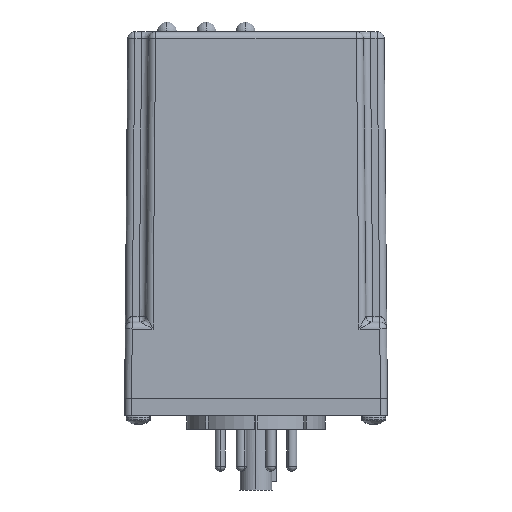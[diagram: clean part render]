
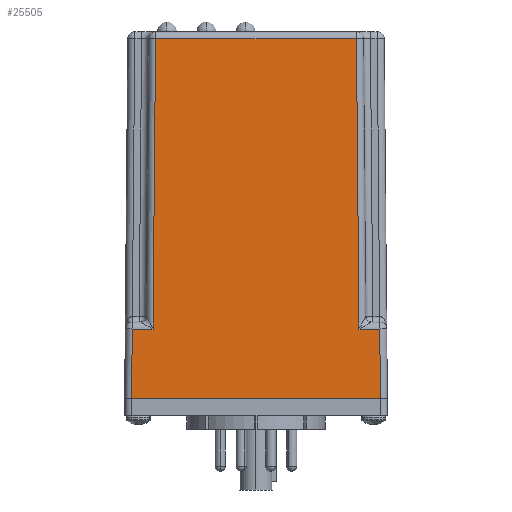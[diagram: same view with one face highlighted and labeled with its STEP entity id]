
A CAD part, left-side view. The second image highlights one B-rep face of the part: STEP entity #25505.
In plain terms, the highlighted planar face has unit normal (-1, 0, 0.009).
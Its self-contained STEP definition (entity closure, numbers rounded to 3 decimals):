
#1275 = DIRECTION ( 'NONE',  ( 0., 1., 0. ) ) ;
#1820 = VECTOR ( 'NONE', #5641, 1000. ) ;
#2055 = EDGE_CURVE ( 'NONE', #35200, #5190, #32835, .T. ) ;
#3034 = EDGE_CURVE ( 'NONE', #9596, #10174, #31612, .T. ) ;
#3218 = CARTESIAN_POINT ( 'NONE',  ( -22.221, 28.558, 0.512 ) ) ;
#3793 = DIRECTION ( 'NONE',  ( 0.009, 0.009, 1. ) ) ;
#3855 = LINE ( 'NONE', #9967, #33288 ) ;
#4881 = AXIS2_PLACEMENT_3D ( 'NONE', #19108, #18525, #15128 ) ;
#5190 = VERTEX_POINT ( 'NONE', #11283 ) ;
#5417 = CARTESIAN_POINT ( 'NONE',  ( -22.225, -28.562, 0. ) ) ;
#5641 = DIRECTION ( 'NONE',  ( 0., 1., 0. ) ) ;
#7003 = FACE_OUTER_BOUND ( 'NONE', #33588, .T. ) ;
#7717 = CARTESIAN_POINT ( 'NONE',  ( -22.086, -23.649, 15.889 ) ) ;
#9161 = VERTEX_POINT ( 'NONE', #5417 ) ;
#9596 = VERTEX_POINT ( 'NONE', #7717 ) ;
#9775 = EDGE_CURVE ( 'NONE', #10174, #25267, #16785, .T. ) ;
#9967 = CARTESIAN_POINT ( 'NONE',  ( -22.225, -30.163, 0. ) ) ;
#10045 = CARTESIAN_POINT ( 'NONE',  ( -22.086, 23.649, 15.889 ) ) ;
#10174 = VERTEX_POINT ( 'NONE', #38957 ) ;
#10233 = DIRECTION ( 'NONE',  ( 0., 1., 0. ) ) ;
#10592 = CARTESIAN_POINT ( 'NONE',  ( -22.225, 28.562, 0. ) ) ;
#11283 = CARTESIAN_POINT ( 'NONE',  ( -22.086, 28.424, 15.889 ) ) ;
#12171 = ORIENTED_EDGE ( 'NONE', *, *, #20058, .T. ) ;
#12950 = VECTOR ( 'NONE', #10233, 1000. ) ;
#13942 = CARTESIAN_POINT ( 'NONE',  ( -22.086, -23.635, 15.889 ) ) ;
#14203 = VECTOR ( 'NONE', #26975, 1000. ) ;
#14673 = VECTOR ( 'NONE', #3793, 1000. ) ;
#14900 = EDGE_CURVE ( 'NONE', #25267, #35200, #30659, .T. ) ;
#15128 = DIRECTION ( 'NONE',  ( 0.009, 0., 1. ) ) ;
#15887 = ORIENTED_EDGE ( 'NONE', *, *, #21694, .T. ) ;
#15923 = DIRECTION ( 'NONE',  ( 0., -1., 0. ) ) ;
#15942 = CARTESIAN_POINT ( 'NONE',  ( -22.225, -23.788, -0.056 ) ) ;
#16331 = LINE ( 'NONE', #13942, #16481 ) ;
#16481 = VECTOR ( 'NONE', #1275, 1000. ) ;
#16785 = LINE ( 'NONE', #31461, #12950 ) ;
#17434 = EDGE_CURVE ( 'NONE', #38471, #9596, #16331, .T. ) ;
#18525 = DIRECTION ( 'NONE',  ( -1., 0., 0.009 ) ) ;
#18823 = VERTEX_POINT ( 'NONE', #10592 ) ;
#19108 = CARTESIAN_POINT ( 'NONE',  ( -22.225, -30.163, 0. ) ) ;
#19138 = DIRECTION ( 'NONE',  ( 0.009, 0.009, 1. ) ) ;
#20058 = EDGE_CURVE ( 'NONE', #9161, #38471, #27759, .T. ) ;
#20163 = CARTESIAN_POINT ( 'NONE',  ( -22.086, 28.41, 15.889 ) ) ;
#20835 = ORIENTED_EDGE ( 'NONE', *, *, #14900, .T. ) ;
#21694 = EDGE_CURVE ( 'NONE', #5190, #18823, #33713, .T. ) ;
#22507 = CARTESIAN_POINT ( 'NONE',  ( -21.505, 23.067, 82.554 ) ) ;
#24637 = PLANE ( 'NONE',  #4881 ) ;
#25267 = VERTEX_POINT ( 'NONE', #22507 ) ;
#25505 = ADVANCED_FACE ( 'NONE', ( #7003 ), #24637, .T. ) ;
#25506 = ORIENTED_EDGE ( 'NONE', *, *, #3034, .T. ) ;
#26702 = ORIENTED_EDGE ( 'NONE', *, *, #2055, .T. ) ;
#26975 = DIRECTION ( 'NONE',  ( -0.009, 0.009, -1. ) ) ;
#27377 = CARTESIAN_POINT ( 'NONE',  ( -22.225, -28.562, -0.014 ) ) ;
#27673 = DIRECTION ( 'NONE',  ( -0.009, 0.009, -1. ) ) ;
#27759 = LINE ( 'NONE', #27377, #14673 ) ;
#28617 = ORIENTED_EDGE ( 'NONE', *, *, #9775, .T. ) ;
#30659 = LINE ( 'NONE', #36213, #38487 ) ;
#31083 = EDGE_CURVE ( 'NONE', #18823, #9161, #3855, .T. ) ;
#31461 = CARTESIAN_POINT ( 'NONE',  ( -21.505, 23.053, 82.554 ) ) ;
#31612 = LINE ( 'NONE', #15942, #34803 ) ;
#32835 = LINE ( 'NONE', #20163, #1820 ) ;
#33288 = VECTOR ( 'NONE', #15923, 1000. ) ;
#33588 = EDGE_LOOP ( 'NONE', ( #20835, #26702, #15887, #37138, #12171, #33600, #25506, #28617 ) ) ;
#33600 = ORIENTED_EDGE ( 'NONE', *, *, #17434, .T. ) ;
#33713 = LINE ( 'NONE', #3218, #14203 ) ;
#34803 = VECTOR ( 'NONE', #19138, 1000. ) ;
#35200 = VERTEX_POINT ( 'NONE', #10045 ) ;
#36213 = CARTESIAN_POINT ( 'NONE',  ( -22.221, 23.783, 0.471 ) ) ;
#37138 = ORIENTED_EDGE ( 'NONE', *, *, #31083, .T. ) ;
#38471 = VERTEX_POINT ( 'NONE', #38992 ) ;
#38487 = VECTOR ( 'NONE', #27673, 1000. ) ;
#38957 = CARTESIAN_POINT ( 'NONE',  ( -21.505, -23.067, 82.554 ) ) ;
#38992 = CARTESIAN_POINT ( 'NONE',  ( -22.086, -28.424, 15.889 ) ) ;
